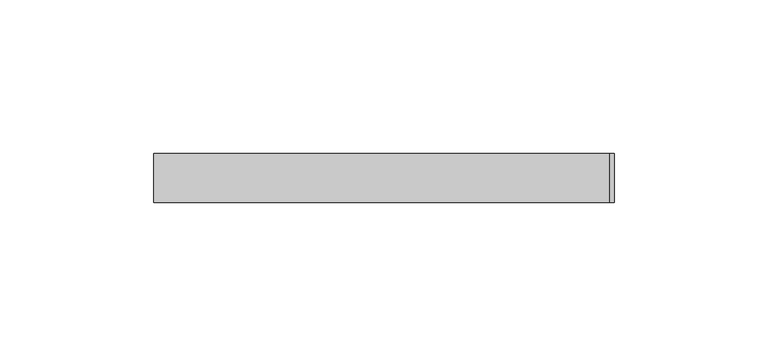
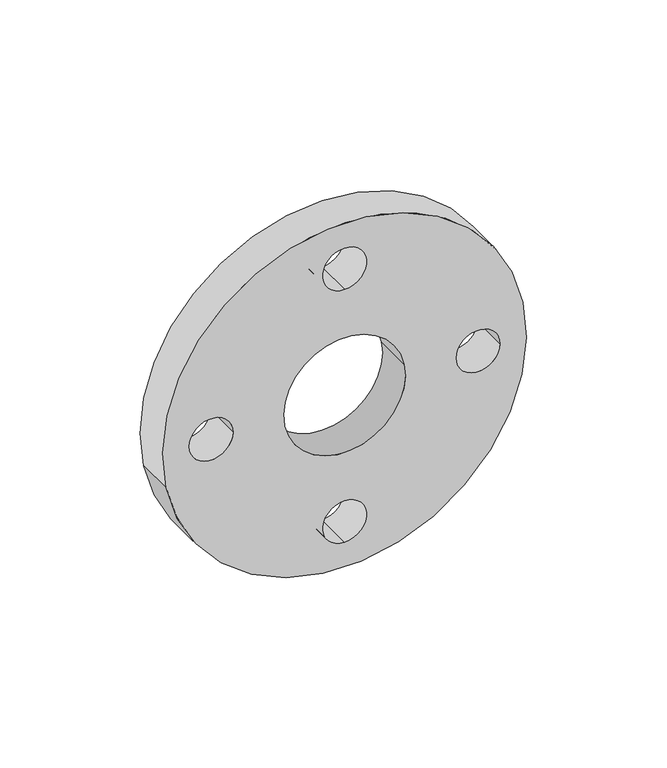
"""IFC4 building model written with IfcOpenShell, lengths in millimetres: pipe fitting geometry, 01051019 : Brides libres."""

from ifc_helpers import new_model, si_unit, point, frame, frame_2d, origin, origin_2d, place, context, project, spatial, circle_curve, trimmed, segment, composite_curve, outline, extrude, source, transform, mapped, element, save


def pipe_fitting_08ba23ad(model_context):
    return source(origin(), model_context, "Body", "SweptSolid", [
        extrude(outline(composite_curve([segment(trimmed(circle_curve(origin_2d(), 75.0), [point((-14.6317742, -73.558896))], [point((14.6317742, 73.558896))], False, "CARTESIAN"), True, "CONTINUOUS"), segment(trimmed(circle_curve(origin_2d(), 75.0), [point((14.6317742, 73.558896))], [point((-14.6317742, -73.558896))], False, "CARTESIAN"), True, "CONTINUOUS")], self_intersect=False), holes=[composite_curve([segment(trimmed(circle_curve(origin_2d(), 25.0), [point((-4.8772581, -24.519632))], [point((4.8772581, 24.519632))], True, "CARTESIAN"), True, "CONTINUOUS"), segment(trimmed(circle_curve(origin_2d(), 25.0), [point((4.8772581, 24.519632))], [point((-4.8772581, -24.519632))], True, "CARTESIAN"), True, "CONTINUOUS")], self_intersect=False), composite_curve([segment(trimmed(circle_curve(frame_2d((0.0, -55.0)), 9.0), [point((0.0, -46.0))], [point((0.0, -64.0))], True, "CARTESIAN"), True, "CONTINUOUS"), segment(trimmed(circle_curve(frame_2d((0.0, -55.0)), 9.0), [point((0.0, -64.0))], [point((0.0, -46.0))], True, "CARTESIAN"), True, "CONTINUOUS")], self_intersect=False), composite_curve([segment(trimmed(circle_curve(frame_2d((55.0, 0.0)), 9.0), [point((46.0, 0.0))], [point((64.0, 0.0))], True, "CARTESIAN"), True, "CONTINUOUS"), segment(trimmed(circle_curve(frame_2d((55.0, 0.0)), 9.0), [point((64.0, 0.0))], [point((46.0, 0.0))], True, "CARTESIAN"), True, "CONTINUOUS")], self_intersect=False), composite_curve([segment(trimmed(circle_curve(frame_2d((-55.0, 0.0)), 9.0), [point((-46.0, 0.0))], [point((-64.0, 0.0))], True, "CARTESIAN"), True, "CONTINUOUS"), segment(trimmed(circle_curve(frame_2d((-55.0, 0.0)), 9.0), [point((-64.0, 0.0))], [point((-46.0, 0.0))], True, "CARTESIAN"), True, "CONTINUOUS")], self_intersect=False), composite_curve([segment(trimmed(circle_curve(frame_2d((0.0, 55.0)), 9.0), [point((0.0, 46.0))], [point((0.0, 64.0))], True, "CARTESIAN"), True, "CONTINUOUS"), segment(trimmed(circle_curve(frame_2d((0.0, 55.0)), 9.0), [point((0.0, 64.0))], [point((0.0, 46.0))], True, "CARTESIAN"), True, "CONTINUOUS")], self_intersect=False)]), frame((0.0, -8.0, 0.0), z_axis=(0.0, 1.0, 0.0), x_axis=(0.0, 0.0, 1.0)), (0.0, 0.0, 1.0), 16.0),
    ])


if __name__ == "__main__":
    model = new_model("IFC4")
    model_context = context("Model", 3, world=origin())
    ifc_project = project(units=[si_unit("LENGTHUNIT", "METRE", prefix="MILLI")], contexts=[model_context])
    site = spatial("IfcSite", under=ifc_project)
    building = spatial("IfcBuilding", under=site)
    placement = place(None, origin())
    pipe_fitting_shape = pipe_fitting_08ba23ad(model_context)
    element("IfcPipeFitting", 1, ObjectType="01051019 : Brides libres", at=placement, inside=building, context=model_context, shape_type="MappedRepresentation", body=[
        mapped(pipe_fitting_shape, transform((0.0, 0.0, 0.0), x_axis=(1.0, 0.0, 0.0), y_axis=(0.0, 1.0, 0.0), z_axis=(0.0, 0.0, 1.0))),
    ])
    save(model, "model.ifc")
